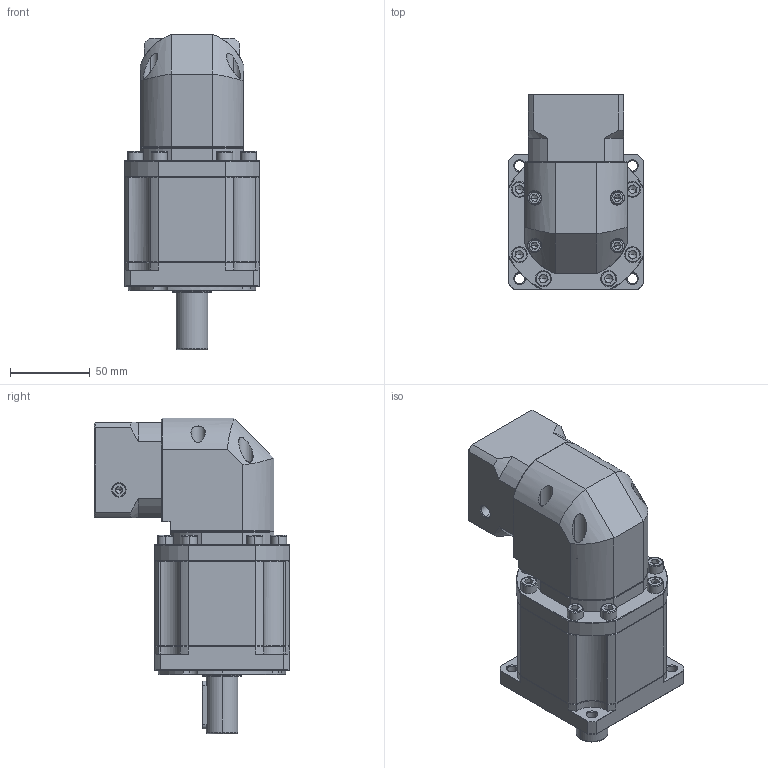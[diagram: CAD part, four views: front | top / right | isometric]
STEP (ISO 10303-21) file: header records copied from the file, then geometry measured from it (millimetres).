
FILE_DESCRIPTION (( 'STEP AP214' ), '1' );
FILE_NAME ('ZBR090-D20-L3-P2-6.35-38.1-47.14x47.14-M4.step', '2023-08-19T03:57:05', ( '' ), ( '' ), 'SwSTEP 2.0', 'SolidWorks 2016', '' );
FILE_SCHEMA (( 'AUTOMOTIVE_DESIGN' ));
Length unit declared in the file: millimetre
Products named in the file (1): ZBR090-D20-L3-P2-6.35-38.1-47.14x47.14-M4
Bounding box: 85 x 122.7 x 198 mm (x, y, z)
Volume: 926273.5 mm3; surface area: 106615 mm2
Topology: 5 solids, 5 shells, 2434 faces, 6441 edges, 4110 vertices
Faces by surface type: plane 1179, cylinder 439, bspline 438, cone 370, torus 8
Entity records: 127638 total; most frequent: CARTESIAN_POINT 43967, ORIENTED_EDGE 12790, DIRECTION 10259, EDGE_CURVE 6395, VERTEX_POINT 4110, VECTOR 4017, LINE 4017, AXIS2_PLACEMENT_3D 3121
